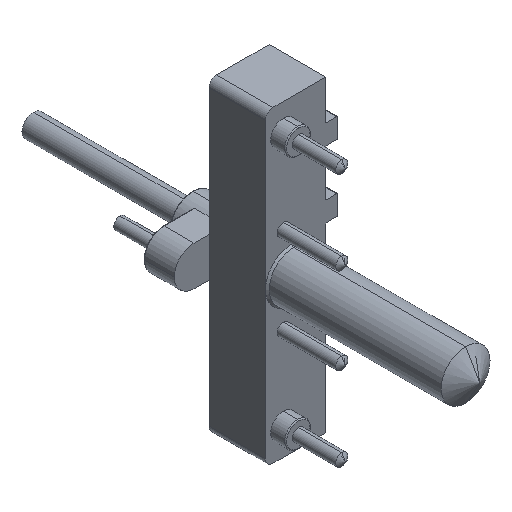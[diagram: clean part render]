
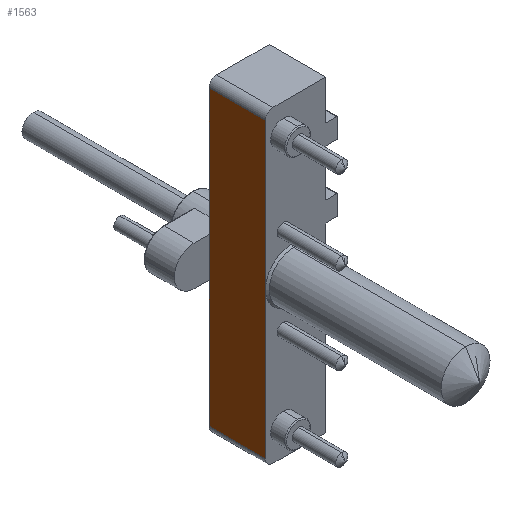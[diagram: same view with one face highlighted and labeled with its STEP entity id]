
A CAD part, isometric view. The second image highlights one B-rep face of the part: STEP entity #1563.
In plain terms, the highlighted planar face has unit normal (-1, 0, 0).
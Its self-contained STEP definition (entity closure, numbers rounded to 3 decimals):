
#12 = VERTEX_POINT ( 'NONE', #1327 ) ;
#36 = CARTESIAN_POINT ( 'NONE',  ( -14., 0., -82. ) ) ;
#42 = CARTESIAN_POINT ( 'NONE',  ( -14., -30., 78. ) ) ;
#55 = VERTEX_POINT ( 'NONE', #1864 ) ;
#116 = AXIS2_PLACEMENT_3D ( 'NONE', #1957, #1433, #662 ) ;
#282 = PLANE ( 'NONE',  #116 ) ;
#293 = VERTEX_POINT ( 'NONE', #1979 ) ;
#325 = DIRECTION ( 'NONE',  ( 0., 0., 1. ) ) ;
#350 = ORIENTED_EDGE ( 'NONE', *, *, #905, .F. ) ;
#368 = VERTEX_POINT ( 'NONE', #685 ) ;
#378 = VECTOR ( 'NONE', #716, 1000. ) ;
#406 = ORIENTED_EDGE ( 'NONE', *, *, #2306, .T. ) ;
#419 = VERTEX_POINT ( 'NONE', #2026 ) ;
#423 = EDGE_CURVE ( 'NONE', #611, #682, #916, .T. ) ;
#477 = ORIENTED_EDGE ( 'NONE', *, *, #582, .T. ) ;
#485 = CARTESIAN_POINT ( 'NONE',  ( -14., -30., 0. ) ) ;
#582 = EDGE_CURVE ( 'NONE', #293, #419, #1558, .T. ) ;
#611 = VERTEX_POINT ( 'NONE', #1745 ) ;
#612 = VECTOR ( 'NONE', #973, 1000. ) ;
#619 = ORIENTED_EDGE ( 'NONE', *, *, #1177, .T. ) ;
#662 = DIRECTION ( 'NONE',  ( 0., 0., 1. ) ) ;
#682 = VERTEX_POINT ( 'NONE', #485 ) ;
#685 = CARTESIAN_POINT ( 'NONE',  ( -14., 0., -10.5 ) ) ;
#686 = ORIENTED_EDGE ( 'NONE', *, *, #1526, .F. ) ;
#713 = DIRECTION ( 'NONE',  ( 0., 0., 1. ) ) ;
#716 = DIRECTION ( 'NONE',  ( 0., 0., 1. ) ) ;
#737 = LINE ( 'NONE', #2219, #1573 ) ;
#833 = CARTESIAN_POINT ( 'NONE',  ( -14., 0., -82. ) ) ;
#834 = DIRECTION ( 'NONE',  ( 0., -1., 0. ) ) ;
#844 = DIRECTION ( 'NONE',  ( 0., 0., -1. ) ) ;
#858 = LINE ( 'NONE', #833, #1887 ) ;
#905 = EDGE_CURVE ( 'NONE', #12, #419, #737, .T. ) ;
#916 = LINE ( 'NONE', #1325, #378 ) ;
#973 = DIRECTION ( 'NONE',  ( 0., 1., 0. ) ) ;
#1018 = LINE ( 'NONE', #1616, #2087 ) ;
#1049 = FACE_OUTER_BOUND ( 'NONE', #1937, .T. ) ;
#1177 = EDGE_CURVE ( 'NONE', #12, #368, #858, .T. ) ;
#1244 = VECTOR ( 'NONE', #1530, 1000. ) ;
#1325 = CARTESIAN_POINT ( 'NONE',  ( -14., -30., -82. ) ) ;
#1327 = CARTESIAN_POINT ( 'NONE',  ( -14., 0., 10.5 ) ) ;
#1433 = DIRECTION ( 'NONE',  ( -1., 0., 0. ) ) ;
#1526 = EDGE_CURVE ( 'NONE', #55, #368, #1711, .T. ) ;
#1530 = DIRECTION ( 'NONE',  ( 0., 0., 1. ) ) ;
#1536 = ORIENTED_EDGE ( 'NONE', *, *, #2368, .T. ) ;
#1558 = LINE ( 'NONE', #42, #612 ) ;
#1563 = ADVANCED_FACE ( 'NONE', ( #1049 ), #282, .T. ) ;
#1573 = VECTOR ( 'NONE', #713, 1000. ) ;
#1590 = LINE ( 'NONE', #1984, #2202 ) ;
#1616 = CARTESIAN_POINT ( 'NONE',  ( -14., -30., -78. ) ) ;
#1711 = LINE ( 'NONE', #36, #1244 ) ;
#1745 = CARTESIAN_POINT ( 'NONE',  ( -14., -30., -78. ) ) ;
#1765 = ORIENTED_EDGE ( 'NONE', *, *, #423, .T. ) ;
#1864 = CARTESIAN_POINT ( 'NONE',  ( -14., 0., -78. ) ) ;
#1887 = VECTOR ( 'NONE', #844, 1000. ) ;
#1937 = EDGE_LOOP ( 'NONE', ( #686, #406, #1765, #1536, #477, #350, #619 ) ) ;
#1957 = CARTESIAN_POINT ( 'NONE',  ( -14., -30., -82. ) ) ;
#1979 = CARTESIAN_POINT ( 'NONE',  ( -14., -30., 78. ) ) ;
#1984 = CARTESIAN_POINT ( 'NONE',  ( -14., -30., -82. ) ) ;
#2026 = CARTESIAN_POINT ( 'NONE',  ( -14., 0., 78. ) ) ;
#2087 = VECTOR ( 'NONE', #834, 1000. ) ;
#2202 = VECTOR ( 'NONE', #325, 1000. ) ;
#2219 = CARTESIAN_POINT ( 'NONE',  ( -14., 0., -82. ) ) ;
#2306 = EDGE_CURVE ( 'NONE', #55, #611, #1018, .T. ) ;
#2368 = EDGE_CURVE ( 'NONE', #682, #293, #1590, .T. ) ;
